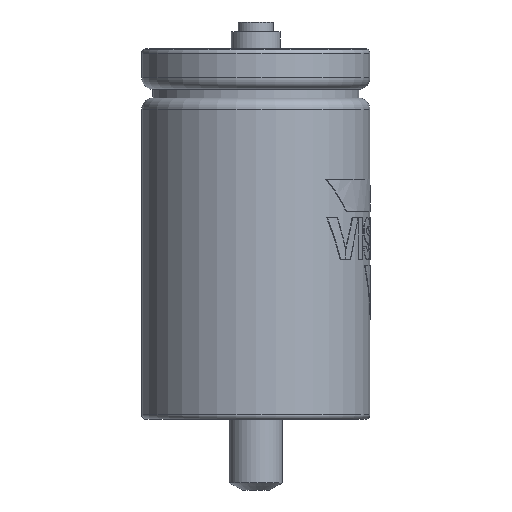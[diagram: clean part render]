
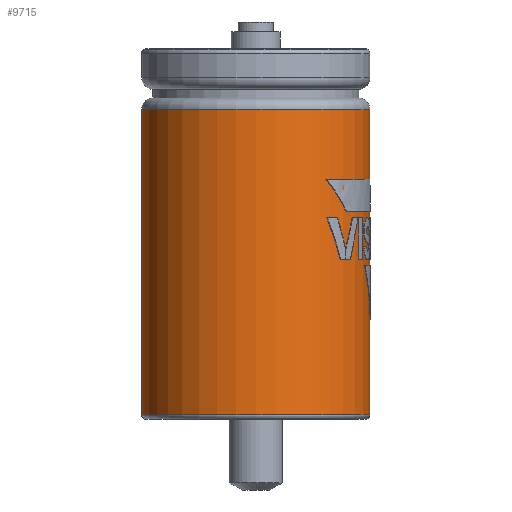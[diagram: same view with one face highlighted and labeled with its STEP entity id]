
A CAD part, left-side view. The second image highlights one B-rep face of the part: STEP entity #9715.
In plain terms, the highlighted cylindrical face has radius 25.5 mm (diameter 51 mm), a full revolution.
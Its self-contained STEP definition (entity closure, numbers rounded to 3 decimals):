
#9648 = TOROIDAL_SURFACE('',#9649,24.5,1.);
#9649 = AXIS2_PLACEMENT_3D('',#9650,#9651,#9652);
#9650 = CARTESIAN_POINT('',(0.,0.,-80.8));
#9651 = DIRECTION('',(0.,0.,1.));
#9652 = DIRECTION('',(1.,0.,0.));
#9665 = VERTEX_POINT('',#9666);
#9666 = CARTESIAN_POINT('',(25.5,0.,-80.8));
#9688 = EDGE_CURVE('',#9665,#9665,#9689,.T.);
#9689 = SURFACE_CURVE('',#9690,(#9695,#9702),.PCURVE_S1.);
#9690 = CIRCLE('',#9691,25.5);
#9691 = AXIS2_PLACEMENT_3D('',#9692,#9693,#9694);
#9692 = CARTESIAN_POINT('',(0.,0.,-80.8));
#9693 = DIRECTION('',(0.,-0.,1.));
#9694 = DIRECTION('',(1.,0.,0.));
#9695 = PCURVE('',#9648,#9696);
#9696 = DEFINITIONAL_REPRESENTATION('',(#9697),#9701);
#9697 = LINE('',#9698,#9699);
#9698 = CARTESIAN_POINT('',(0.,6.283));
#9699 = VECTOR('',#9700,1.);
#9700 = DIRECTION('',(1.,0.));
#9701 = ( GEOMETRIC_REPRESENTATION_CONTEXT(2) 
PARAMETRIC_REPRESENTATION_CONTEXT() REPRESENTATION_CONTEXT('2D SPACE',''
  ) );
#9702 = PCURVE('',#9703,#9708);
#9703 = CYLINDRICAL_SURFACE('',#9704,25.5);
#9704 = AXIS2_PLACEMENT_3D('',#9705,#9706,#9707);
#9705 = CARTESIAN_POINT('',(0.,0.,-80.8));
#9706 = DIRECTION('',(0.,0.,1.));
#9707 = DIRECTION('',(1.,0.,0.));
#9708 = DEFINITIONAL_REPRESENTATION('',(#9709),#9713);
#9709 = LINE('',#9710,#9711);
#9710 = CARTESIAN_POINT('',(0.,0.));
#9711 = VECTOR('',#9712,1.);
#9712 = DIRECTION('',(1.,0.));
#9713 = ( GEOMETRIC_REPRESENTATION_CONTEXT(2) 
PARAMETRIC_REPRESENTATION_CONTEXT() REPRESENTATION_CONTEXT('2D SPACE',''
  ) );
#9715 = ADVANCED_FACE('',(#9716),#9703,.T.);
#9716 = FACE_BOUND('',#9717,.T.);
#9717 = EDGE_LOOP('',(#9718,#9719,#9742,#9769));
#9718 = ORIENTED_EDGE('',*,*,#9688,.T.);
#9719 = ORIENTED_EDGE('',*,*,#9720,.T.);
#9720 = EDGE_CURVE('',#9665,#9721,#9723,.T.);
#9721 = VERTEX_POINT('',#9722);
#9722 = CARTESIAN_POINT('',(25.5,0.,-12.5));
#9723 = SEAM_CURVE('',#9724,(#9728,#9735),.PCURVE_S1.);
#9724 = LINE('',#9725,#9726);
#9725 = CARTESIAN_POINT('',(25.5,0.,-80.8));
#9726 = VECTOR('',#9727,1.);
#9727 = DIRECTION('',(0.,0.,1.));
#9728 = PCURVE('',#9703,#9729);
#9729 = DEFINITIONAL_REPRESENTATION('',(#9730),#9734);
#9730 = LINE('',#9731,#9732);
#9731 = CARTESIAN_POINT('',(0.,0.));
#9732 = VECTOR('',#9733,1.);
#9733 = DIRECTION('',(0.,1.));
#9734 = ( GEOMETRIC_REPRESENTATION_CONTEXT(2) 
PARAMETRIC_REPRESENTATION_CONTEXT() REPRESENTATION_CONTEXT('2D SPACE',''
  ) );
#9735 = PCURVE('',#9703,#9736);
#9736 = DEFINITIONAL_REPRESENTATION('',(#9737),#9741);
#9737 = LINE('',#9738,#9739);
#9738 = CARTESIAN_POINT('',(6.283,0.));
#9739 = VECTOR('',#9740,1.);
#9740 = DIRECTION('',(0.,1.));
#9741 = ( GEOMETRIC_REPRESENTATION_CONTEXT(2) 
PARAMETRIC_REPRESENTATION_CONTEXT() REPRESENTATION_CONTEXT('2D SPACE',''
  ) );
#9742 = ORIENTED_EDGE('',*,*,#9743,.F.);
#9743 = EDGE_CURVE('',#9721,#9721,#9744,.T.);
#9744 = SURFACE_CURVE('',#9745,(#9750,#9757),.PCURVE_S1.);
#9745 = CIRCLE('',#9746,25.5);
#9746 = AXIS2_PLACEMENT_3D('',#9747,#9748,#9749);
#9747 = CARTESIAN_POINT('',(0.,0.,-12.5));
#9748 = DIRECTION('',(0.,-0.,1.));
#9749 = DIRECTION('',(1.,0.,0.));
#9750 = PCURVE('',#9703,#9751);
#9751 = DEFINITIONAL_REPRESENTATION('',(#9752),#9756);
#9752 = LINE('',#9753,#9754);
#9753 = CARTESIAN_POINT('',(0.,68.3));
#9754 = VECTOR('',#9755,1.);
#9755 = DIRECTION('',(1.,0.));
#9756 = ( GEOMETRIC_REPRESENTATION_CONTEXT(2) 
PARAMETRIC_REPRESENTATION_CONTEXT() REPRESENTATION_CONTEXT('2D SPACE',''
  ) );
#9757 = PCURVE('',#9758,#9763);
#9758 = TOROIDAL_SURFACE('',#9759,23.,2.5);
#9759 = AXIS2_PLACEMENT_3D('',#9760,#9761,#9762);
#9760 = CARTESIAN_POINT('',(0.,0.,-12.5));
#9761 = DIRECTION('',(0.,0.,1.));
#9762 = DIRECTION('',(1.,0.,0.));
#9763 = DEFINITIONAL_REPRESENTATION('',(#9764),#9768);
#9764 = LINE('',#9765,#9766);
#9765 = CARTESIAN_POINT('',(0.,0.));
#9766 = VECTOR('',#9767,1.);
#9767 = DIRECTION('',(1.,0.));
#9768 = ( GEOMETRIC_REPRESENTATION_CONTEXT(2) 
PARAMETRIC_REPRESENTATION_CONTEXT() REPRESENTATION_CONTEXT('2D SPACE',''
  ) );
#9769 = ORIENTED_EDGE('',*,*,#9720,.F.);
